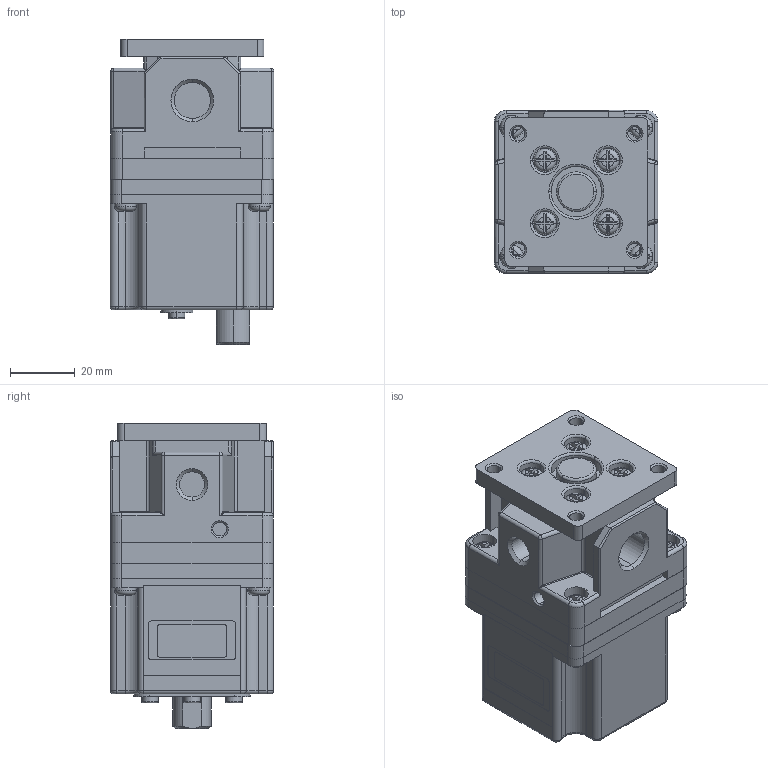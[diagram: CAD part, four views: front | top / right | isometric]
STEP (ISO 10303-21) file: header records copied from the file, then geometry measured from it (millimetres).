
FILE_DESCRIPTION (( 'STEP AP214' ), '1' );
FILE_NAME ('NITV2050-01F2CL.STEP', '2021-02-12T13:26:44', ( '' ), ( '' ), 'SwSTEP 2.0', 'SolidWorks 2021', '' );
FILE_SCHEMA (( 'AUTOMOTIVE_DESIGN' ));
Length unit declared in the file: millimetre
Products named in the file (3): NITV1050-211BS-Cabezal; NITV1050-01F2CL-Base; NITV2050-01F2CL
Assembly tree (2 placements, depth 2):
  NITV2050-01F2CL
    NITV1050-01F2CL-Base
    NITV1050-211BS-Cabezal
Bounding box: 50.6 x 50.4 x 94.43 mm (x, y, z)
Volume: 172855.5 mm3; surface area: 43167 mm2
Topology: 4 solids, 4 shells, 620 faces, 1572 edges, 997 vertices
Faces by surface type: plane 331, cylinder 184, torus 73, cone 20, bspline 8, sphere 4
Entity records: 25832 total; most frequent: CARTESIAN_POINT 4184, ORIENTED_EDGE 3136, DIRECTION 3098, EDGE_CURVE 1568, AXIS2_PLACEMENT_3D 1123, VERTEX_POINT 997, LINE 852, VECTOR 852
